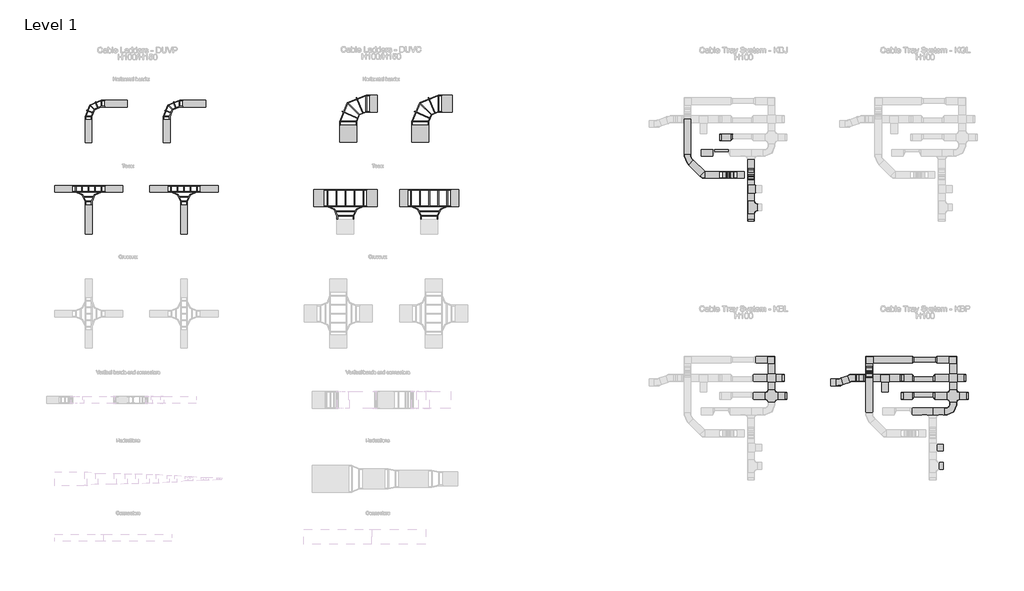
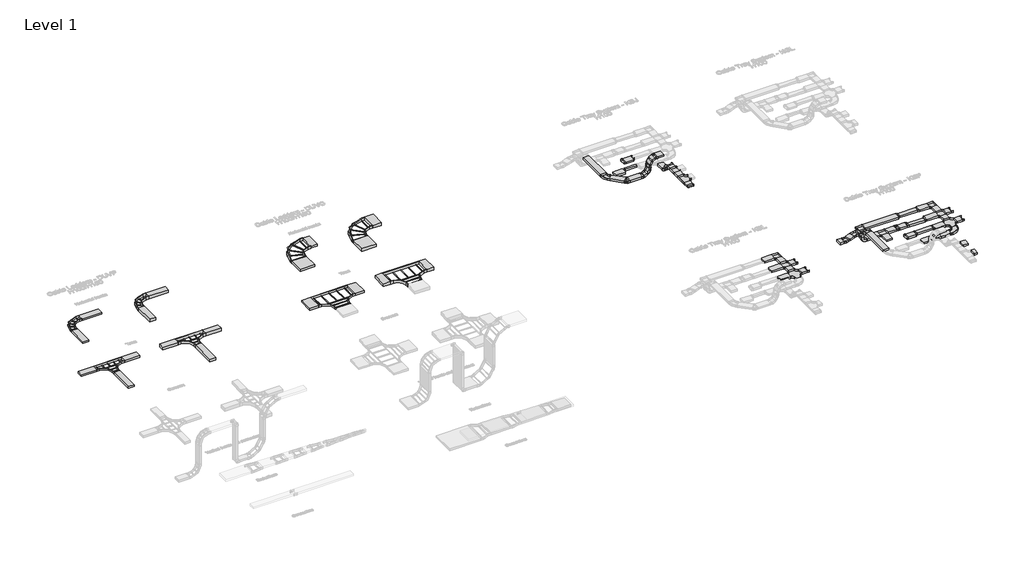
# One storey, part 24 of 106: 63 cable carrier segments, 57 cable carrier fittings.
"""IFC4 building model written with IfcOpenShell, lengths in millimetres."""

from ifc_helpers import new_model, si_unit, frame, origin, place, context, project, spatial, polyline, outline, extrude, transform, mapped, element, save
from components import cable_carrier_fitting_cb057536, cable_carrier_fitting_d4f283aa, cable_carrier_fitting_c163f1ca, cable_carrier_fitting_42195290, cable_carrier_fitting_5f227b89, cable_carrier_fitting_7ef83dec, cable_carrier_fitting_1d3f857e, cable_carrier_fitting_0afdfe74, cable_carrier_fitting_2d5aa353, cable_carrier_fitting_83230dc4, cable_carrier_fitting_3cbe9e62, cable_carrier_fitting_c86838e9, cable_carrier_fitting_985dcf24, cable_carrier_fitting_ca5a2d19, cable_carrier_fitting_24d58ad9, cable_carrier_fitting_3a6d649d, cable_carrier_fitting_1be5f7b4, cable_carrier_fitting_32826c86, cable_carrier_fitting_b014db50, cable_carrier_fitting_215990fd, cable_carrier_fitting_a4a1986d, cable_carrier_fitting_337cd88a, cable_carrier_fitting_d9dc0397, cable_carrier_fitting_aff088c4, cable_carrier_fitting_f64cf4c9, cable_carrier_fitting_9c7536f1, cable_carrier_fitting_f50788b4, cable_carrier_fitting_844d2b92, cable_carrier_fitting_29c6dbfe, cable_carrier_fitting_c3247b3d, cable_carrier_fitting_a7df6f7b, cable_carrier_fitting_eff098e2

model = new_model("IFC4")

# Units and contexts
model_context = context("Model", 3, world=origin())
ifc_project = project(units=[si_unit("LENGTHUNIT", "METRE", prefix="MILLI")], contexts=[model_context])

# Site, building, storey
site = spatial("IfcSite", under=ifc_project)
building = spatial("IfcBuilding", under=site)
storey = spatial("IfcBuildingStorey", under=building, Name="Level 1", Elevation=0.0)

# Cable carrier fittings
placement = place(None, origin())
cable_carrier_fitting_shape = cable_carrier_fitting_cb057536(model_context)
element("IfcCableCarrierFitting", 1, ObjectType="BAKS_BEND_Adjustable vertical bend element_EL : ELP_H100", at=placement, inside=storey, context=model_context, shape_type="MappedRepresentation", body=[
    mapped(cable_carrier_fitting_shape, transform((158633.2340999, 66131.3714214, 322.7153903), x_axis=(0.4999999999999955, 0.0, 0.8660254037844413), y_axis=(0.0, 1.0, 0.0), z_axis=(-0.8660254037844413, 0.0, 0.4999999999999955))),
])
element("IfcCableCarrierFitting", 2, ObjectType="BAKS_BEND_Adjustable vertical bend element_EL : ELP_H100", at=placement, inside=storey, context=model_context, shape_type="MappedRepresentation", body=[
    mapped(cable_carrier_fitting_shape, transform((158436.5219776, 66131.3714214, 223.0), x_axis=(0.8660254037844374, 0.0, 0.5000000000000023), y_axis=(0.0, 1.0, 0.0), z_axis=(-0.5000000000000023, 0.0, 0.8660254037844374))),
])
element("IfcCableCarrierFitting", 3, ObjectType="BAKS_BEND_Adjustable vertical bend element_EL : ELP_H100", at=placement, inside=storey, context=model_context, shape_type="MappedRepresentation", body=[
    mapped(cable_carrier_fitting_shape, transform((158841.4494902, 66131.3714214, 936.9011537), x_axis=(0.8660254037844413, 0.0, 0.4999999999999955), y_axis=(0.0, -1.0, 0.0), z_axis=(0.4999999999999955, 0.0, -0.8660254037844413))),
])
element("IfcCableCarrierFitting", 4, ObjectType="BAKS_BEND_Adjustable vertical bend element_EL : ELP_H100", at=placement, inside=storey, context=model_context, shape_type="MappedRepresentation", body=[
    mapped(cable_carrier_fitting_shape, transform((158741.7340999, 66131.3714214, 740.1890314), x_axis=(0.5000000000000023, 0.0, 0.8660254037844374), y_axis=(0.0, -1.0, 0.0), z_axis=(0.8660254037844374, 0.0, -0.5000000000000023))),
])
cable_carrier_fitting_2_shape = cable_carrier_fitting_d4f283aa(model_context)
element("IfcCableCarrierFitting", 5, ObjectType="BAKS_Reducer : RK(S/L/P)J_H100", at=placement, inside=storey, context=model_context, shape_type="MappedRepresentation", body=[
    mapped(cable_carrier_fitting_2_shape, transform((158377.8329462, 67780.8714214, 0.0), x_axis=(1.0, 0.0, 0.0), y_axis=(0.0, 1.0, 0.0), z_axis=(0.0, 0.0, 1.0))),
])
element("IfcCableCarrierFitting", 6, ObjectType="BAKS_Reducer : RK(S/L/P)J_H100", at=placement, inside=storey, context=model_context, shape_type="MappedRepresentation", body=[
    mapped(cable_carrier_fitting_2_shape, transform((159753.8329462, 64094.2974728, 432.5277378), x_axis=(0.0, 1.0, 0.0), y_axis=(-1.0, 0.0, 0.0), z_axis=(0.0, 0.0, 1.0))),
])
element("IfcCableCarrierFitting", 7, ObjectType="BAKS_Reducer : RK(S/L/P)J_H100", at=placement, inside=storey, context=model_context, shape_type="MappedRepresentation", body=[
    mapped(cable_carrier_fitting_2_shape, transform((161211.8329462, 57180.8714214, 0.0), x_axis=(-1.0, 0.0, 0.0), y_axis=(0.0, -1.0, 0.0), z_axis=(0.0, 0.0, 1.0))),
])
element("IfcCableCarrierFitting", 8, ObjectType="BAKS_Reducer : RK(S/L/P)J_H100", at=placement, inside=storey, context=model_context, shape_type="MappedRepresentation", body=[
    mapped(cable_carrier_fitting_2_shape, transform((161325.8329462, 56380.8714214, 0.0), x_axis=(-1.0, 0.0, 0.0), y_axis=(0.0, -1.0, 0.0), z_axis=(0.0, 0.0, 1.0))),
])
cable_carrier_fitting_3_shape = cable_carrier_fitting_c163f1ca(model_context)
element("IfcCableCarrierFitting", 9, ObjectType="BAKS_Reducer : RK(S/L/P)J_H100", at=placement, inside=storey, context=model_context, shape_type="MappedRepresentation", body=[
    mapped(cable_carrier_fitting_3_shape, transform((158951.8329462, 67830.8714214, 0.0), x_axis=(-1.0, 0.0, 0.0), y_axis=(0.0, -1.0, 0.0), z_axis=(0.0, 0.0, 1.0))),
])
cable_carrier_fitting_4_shape = cable_carrier_fitting_42195290(model_context)
element("IfcCableCarrierFitting", 10, ObjectType="BAKS_Horizontal bend : KKJ/KKMJ_H100", at=placement, inside=storey, context=model_context, shape_type="MappedRepresentation", body=[
    mapped(cable_carrier_fitting_4_shape, transform((160656.8329462, 57980.8714214, 0.0), x_axis=(0.0, 1.0, 0.0), y_axis=(-1.0, 0.0, 0.0), z_axis=(0.0, 0.0, 1.0))),
])
cable_carrier_fitting_5_shape = cable_carrier_fitting_5f227b89(model_context)
element("IfcCableCarrierFitting", 11, ObjectType="BAKS_Horizontal cross over : CZKJ_H100", at=placement, inside=storey, context=model_context, shape_type="MappedRepresentation", body=[
    mapped(cable_carrier_fitting_5_shape, transform((160656.8329462, 57180.8714214, 0.0), x_axis=(0.0, -1.0, 0.0), y_axis=(1.0, 0.0, 0.0), z_axis=(0.0, 0.0, 1.0))),
])
element("IfcCableCarrierFitting", 12, ObjectType="BAKS_Horizontal cross over : CZKJ_H100", at=placement, inside=storey, context=model_context, shape_type="MappedRepresentation", body=[
    mapped(cable_carrier_fitting_5_shape, transform((168656.8329462, 57180.8714214, 0.0), x_axis=(0.0, -1.0, 0.0), y_axis=(1.0, 0.0, 0.0), z_axis=(0.0, 0.0, 1.0))),
])
cable_carrier_fitting_6_shape = cable_carrier_fitting_7ef83dec(model_context)
element("IfcCableCarrierFitting", 13, ObjectType="BAKS_Horizontal cross over radius : CZKPJ_H100", at=placement, inside=storey, context=model_context, shape_type="MappedRepresentation", body=[
    mapped(cable_carrier_fitting_6_shape, transform((160656.8329462, 56380.8714214, 0.0), x_axis=(0.0, -1.0, 0.0), y_axis=(1.0, 0.0, 0.0), z_axis=(0.0, 0.0, 1.0))),
])
element("IfcCableCarrierFitting", 14, ObjectType="BAKS_Horizontal cross over radius : CZKPJ_H100", at=placement, inside=storey, context=model_context, shape_type="MappedRepresentation", body=[
    mapped(cable_carrier_fitting_6_shape, transform((168656.8329462, 56380.8714214, 0.0), x_axis=(0.0, -1.0, 0.0), y_axis=(1.0, 0.0, 0.0), z_axis=(0.0, 0.0, 1.0))),
])
cable_carrier_fitting_7_shape = cable_carrier_fitting_1d3f857e(model_context)
element("IfcCableCarrierFitting", 15, ObjectType="BAKS_Horizontal bend radius : KKPJ/KKMPJ_H100", at=placement, inside=storey, context=model_context, shape_type="MappedRepresentation", body=[
    mapped(cable_carrier_fitting_7_shape, transform((156956.8329462, 66830.8714214, 235.0), x_axis=(0.0, -1.0, 0.0), y_axis=(1.0, 0.0, 0.0), z_axis=(0.0, 0.0, 1.0))),
])
cable_carrier_fitting_8_shape = cable_carrier_fitting_0afdfe74(model_context)
element("IfcCableCarrierFitting", 16, ObjectType="BAKS_Horizontal tee : TKJ_H100", at=placement, inside=storey, context=model_context, shape_type="MappedRepresentation", body=[
    mapped(cable_carrier_fitting_8_shape, transform((159753.8329462, 65503.8631068, 432.5277378), x_axis=(0.0, 1.0, 0.0), y_axis=(-1.0, 0.0, 0.0), z_axis=(0.0, 0.0, 1.0))),
])
cable_carrier_fitting_9_shape = cable_carrier_fitting_2d5aa353(model_context)
element("IfcCableCarrierFitting", 17, ObjectType="BAKS_BEND_Articulated connector_LGP : LGP_H100", at=placement, inside=storey, context=model_context, shape_type="MappedRepresentation", body=[
    mapped(cable_carrier_fitting_9_shape, transform((158457.3065873, 65981.3714214, 235.0), x_axis=(1.0, 0.0, 0.0), y_axis=(0.0, 0.0, 1.0), z_axis=(0.0, -1.0, 0.0))),
])
element("IfcCableCarrierFitting", 18, ObjectType="BAKS_BEND_Articulated connector_LGP : LGP_H100", at=placement, inside=storey, context=model_context, shape_type="MappedRepresentation", body=[
    mapped(cable_carrier_fitting_9_shape, transform((158753.7340999, 66281.3714214, 760.9736411), x_axis=(0.0, 0.0, 1.0), y_axis=(1.0, 0.0, 0.0), z_axis=(0.0, 1.0, 0.0))),
])
cable_carrier_fitting_10_shape = cable_carrier_fitting_83230dc4(model_context)
element("IfcCableCarrierFitting", 19, ObjectType="BAKS_BEND_Articulated connector_LGP : LGP_H100", at=placement, inside=storey, context=model_context, shape_type="MappedRepresentation", body=[
    mapped(cable_carrier_fitting_10_shape, transform((158753.7340999, 65981.3714214, 531.4275126), x_axis=(0.4999999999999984, 0.0, 0.8660254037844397), y_axis=(-0.8660254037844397, 0.0, 0.4999999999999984), z_axis=(0.0, -1.0, 0.0))),
])
element("IfcCableCarrierFitting", 20, ObjectType="BAKS_BEND_Articulated connector_LGP : LGP_H100", at=placement, inside=storey, context=model_context, shape_type="MappedRepresentation", body=[
    mapped(cable_carrier_fitting_10_shape, transform((159050.1616126, 66281.3714214, 1057.4011537), x_axis=(0.8660254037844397, 0.0, 0.4999999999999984), y_axis=(0.4999999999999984, 0.0, -0.8660254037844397), z_axis=(0.0, 1.0, 0.0))),
])
cable_carrier_fitting_11_shape = cable_carrier_fitting_3cbe9e62(model_context)
element("IfcCableCarrierFitting", 21, ObjectType="BAKS_BEND_Articulated connector_LGP : LGP_H100", at=placement, inside=storey, context=model_context, shape_type="MappedRepresentation", body=[
    mapped(cable_carrier_fitting_11_shape, transform((158753.7340999, 66281.3714214, 531.4275126), x_axis=(0.4999999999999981, 0.0, 0.8660254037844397), y_axis=(0.8660254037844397, 0.0, -0.4999999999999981), z_axis=(0.0, 1.0, 0.0))),
])
element("IfcCableCarrierFitting", 22, ObjectType="BAKS_BEND_Articulated connector_LGP : LGP_H100", at=placement, inside=storey, context=model_context, shape_type="MappedRepresentation", body=[
    mapped(cable_carrier_fitting_11_shape, transform((159050.1616126, 65981.3714214, 1057.4011537), x_axis=(0.8660254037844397, 0.0, 0.4999999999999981), y_axis=(-0.4999999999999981, 0.0, 0.8660254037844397), z_axis=(0.0, -1.0, 0.0))),
])
cable_carrier_fitting_12_shape = cable_carrier_fitting_c86838e9(model_context)
element("IfcCableCarrierFitting", 23, ObjectType="BAKS_BEND_Articulated connector_LGP : LGP_H100", at=placement, inside=storey, context=model_context, shape_type="MappedRepresentation", body=[
    mapped(cable_carrier_fitting_12_shape, transform((158457.3065873, 66281.3714214, 235.0), x_axis=(1.0, 0.0, 0.0), y_axis=(0.0, 0.0, -1.0), z_axis=(0.0, 1.0, 0.0))),
])
element("IfcCableCarrierFitting", 24, ObjectType="BAKS_BEND_Articulated connector_LGP : LGP_H100", at=placement, inside=storey, context=model_context, shape_type="MappedRepresentation", body=[
    mapped(cable_carrier_fitting_12_shape, transform((158753.7340999, 65981.3714214, 760.9736411), x_axis=(0.0, 0.0, 1.0), y_axis=(-1.0, 0.0, 0.0), z_axis=(0.0, -1.0, 0.0))),
])
cable_carrier_fitting_13_shape = cable_carrier_fitting_985dcf24(model_context)
element("IfcCableCarrierFitting", 25, ObjectType="BAKS_Horizontal bend : KKJ/KKMJ_H100", at=placement, inside=storey, context=model_context, shape_type="MappedRepresentation", body=[
    mapped(cable_carrier_fitting_13_shape, transform((157656.3329462, 66131.3714214, 235.0), x_axis=(0.707106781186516, -0.707106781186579, 0.0), y_axis=(0.707106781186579, 0.707106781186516, 0.0), z_axis=(0.0, 0.0, 1.0))),
])
cable_carrier_fitting_14_shape = cable_carrier_fitting_ca5a2d19(model_context)
element("IfcCableCarrierFitting", 26, ObjectType="BAKS_Horizontal tee radius : TKPJ_H100", at=placement, inside=storey, context=model_context, shape_type="MappedRepresentation", body=[
    mapped(cable_carrier_fitting_14_shape, transform((159753.8329462, 64696.5802898, 432.5277378), x_axis=(0.0, 1.0, 0.0), y_axis=(-1.0, 0.0, 0.0), z_axis=(0.0, 0.0, 1.0))),
])
cable_carrier_fitting_15_shape = cable_carrier_fitting_24d58ad9(model_context)
element("IfcCableCarrierFitting", 27, ObjectType="BAKS_Horizontal bend radius : KKPP/KKMPP_H100", at=placement, inside=storey, context=model_context, shape_type="MappedRepresentation", body=[
    mapped(cable_carrier_fitting_15_shape, transform((168656.8329462, 55699.8714214, 0.0), x_axis=(1.0, 0.0, 0.0), y_axis=(0.0, 1.0, 0.0), z_axis=(0.0, 0.0, 1.0))),
])
cable_carrier_fitting_16_shape = cable_carrier_fitting_3a6d649d(model_context)
element("IfcCableCarrierFitting", 28, ObjectType="BAKS_Horizontal bend radius : KKPP/KKMPP_H100", at=placement, inside=storey, context=model_context, shape_type="MappedRepresentation", body=[
    mapped(cable_carrier_fitting_16_shape, transform((164186.1981218, 57180.8714214, 438.0), x_axis=(-1.0, 0.0, 0.0), y_axis=(0.0, -1.0, 0.0), z_axis=(0.0, 0.0, 1.0))),
])
element("IfcCableCarrierFitting", 29, ObjectType="BAKS_Horizontal bend radius : KKPP/KKMPP_H100", at=placement, inside=storey, context=model_context, shape_type="MappedRepresentation", body=[
    mapped(cable_carrier_fitting_16_shape, transform((163630.7130894, 56978.691404, 438.0), x_axis=(1.0, 0.0, 0.0), y_axis=(0.0, 1.0, 0.0), z_axis=(0.0, 0.0, 1.0))),
])
cable_carrier_fitting_17_shape = cable_carrier_fitting_1be5f7b4(model_context)
element("IfcCableCarrierFitting", 30, ObjectType="BAKS_Reducer : RK(S/L/P)P_H100", at=placement, inside=storey, context=model_context, shape_type="MappedRepresentation", body=[
    mapped(cable_carrier_fitting_17_shape, transform((167856.8329462, 57980.8714214, 0.0), x_axis=(1.0, 0.0, 0.0), y_axis=(0.0, 1.0, 0.0), z_axis=(0.0, 0.0, 1.0))),
])
element("IfcCableCarrierFitting", 31, ObjectType="BAKS_Reducer : RK(S/L/P)P_H100", at=placement, inside=storey, context=model_context, shape_type="MappedRepresentation", body=[
    mapped(cable_carrier_fitting_3_shape, transform((167761.8329462, 57130.8714214, 0.0), x_axis=(1.0, 0.0, 0.0), y_axis=(0.0, 1.0, 0.0), z_axis=(0.0, 0.0, 1.0))),
])
element("IfcCableCarrierFitting", 32, ObjectType="BAKS_Reducer : RK(S/L/P)P_H100", at=placement, inside=storey, context=model_context, shape_type="MappedRepresentation", body=[
    mapped(cable_carrier_fitting_3_shape, transform((166951.8329462, 56430.8714214, 0.0), x_axis=(-1.0, 0.0, 0.0), y_axis=(0.0, -1.0, 0.0), z_axis=(0.0, 0.0, 1.0))),
])
cable_carrier_fitting_18_shape = cable_carrier_fitting_32826c86(model_context)
element("IfcCableCarrierFitting", 33, ObjectType="BAKS_Reducer : RK(S/L/P)P_H100", at=placement, inside=storey, context=model_context, shape_type="MappedRepresentation", body=[
    mapped(cable_carrier_fitting_18_shape, transform((166951.8329462, 57130.8714214, 0.0), x_axis=(-1.0, 0.0, 0.0), y_axis=(0.0, -1.0, 0.0), z_axis=(0.0, 0.0, 1.0))),
])
element("IfcCableCarrierFitting", 34, ObjectType="BAKS_Reducer : RK(S/L/P)P_H100", at=placement, inside=storey, context=model_context, shape_type="MappedRepresentation", body=[
    mapped(cable_carrier_fitting_18_shape, transform((167761.8329462, 56430.8714214, 0.0), x_axis=(1.0, 0.0, 0.0), y_axis=(0.0, 1.0, 0.0), z_axis=(0.0, 0.0, 1.0))),
])
element("IfcCableCarrierFitting", 35, ObjectType="BAKS_Reducer : RK(S/L/P)P_H100", at=placement, inside=storey, context=model_context, shape_type="MappedRepresentation", body=[
    mapped(cable_carrier_fitting_2_shape, transform((166399.3329462, 57180.8714214, 0.0), x_axis=(1.0, 0.0, 0.0), y_axis=(0.0, 1.0, 0.0), z_axis=(0.0, 0.0, 1.0))),
])
element("IfcCableCarrierFitting", 36, ObjectType="BAKS_Reducer : RK(S/L/P)P_H100", at=placement, inside=storey, context=model_context, shape_type="MappedRepresentation", body=[
    mapped(cable_carrier_fitting_2_shape, transform((166399.3329462, 57180.8714214, 0.0), x_axis=(-1.0, 0.0, 0.0), y_axis=(0.0, -1.0, 0.0), z_axis=(0.0, 0.0, 1.0))),
])
element("IfcCableCarrierFitting", 37, ObjectType="BAKS_Reducer : RK(S/L/P)P_H100", at=placement, inside=storey, context=model_context, shape_type="MappedRepresentation", body=[
    mapped(cable_carrier_fitting_2_shape, transform((166377.8329462, 56380.8714214, 0.0), x_axis=(1.0, 0.0, 0.0), y_axis=(0.0, 1.0, 0.0), z_axis=(0.0, 0.0, 1.0))),
])
element("IfcCableCarrierFitting", 38, ObjectType="BAKS_Reducer : RK(S/L/P)P_H100", at=placement, inside=storey, context=model_context, shape_type="MappedRepresentation", body=[
    mapped(cable_carrier_fitting_2_shape, transform((169211.8329462, 57180.8714214, 0.0), x_axis=(-1.0, 0.0, 0.0), y_axis=(0.0, -1.0, 0.0), z_axis=(0.0, 0.0, 1.0))),
])
element("IfcCableCarrierFitting", 39, ObjectType="BAKS_Reducer : RK(S/L/P)P_H100", at=placement, inside=storey, context=model_context, shape_type="MappedRepresentation", body=[
    mapped(cable_carrier_fitting_2_shape, transform((169325.8329462, 56380.8714214, 0.0), x_axis=(-1.0, 0.0, 0.0), y_axis=(0.0, -1.0, 0.0), z_axis=(0.0, 0.0, 1.0))),
])
cable_carrier_fitting_19_shape = cable_carrier_fitting_b014db50(model_context)
element("IfcCableCarrierFitting", 40, ObjectType="BAKS_Reducer : RK(S/L/P)P_H100", at=placement, inside=storey, context=model_context, shape_type="MappedRepresentation", body=[
    mapped(cable_carrier_fitting_19_shape, transform((166856.8329462, 57980.8714214, 0.0), x_axis=(1.0, 0.0, 0.0), y_axis=(0.0, 1.0, 0.0), z_axis=(0.0, 0.0, 1.0))),
])
element("IfcCableCarrierFitting", 41, ObjectType="BAKS_Horizontal tee : TKP_H100", at=placement, inside=storey, context=model_context, shape_type="MappedRepresentation", body=[
    mapped(cable_carrier_fitting_8_shape, transform((165656.3329462, 57180.8714214, 0.0), x_axis=(1.0, 0.0, 0.0), y_axis=(0.0, 1.0, 0.0), z_axis=(0.0, 0.0, 1.0))),
])
element("IfcCableCarrierFitting", 42, ObjectType="BAKS_Horizontal bend : KKP/KKMP_H100", at=placement, inside=storey, context=model_context, shape_type="MappedRepresentation", body=[
    mapped(cable_carrier_fitting_4_shape, transform((168656.8329462, 57980.8714214, 0.0), x_axis=(0.0, 1.0, 0.0), y_axis=(-1.0, 0.0, 0.0), z_axis=(0.0, 0.0, 1.0))),
])
element("IfcCableCarrierFitting", 43, ObjectType="BAKS_Horizontal bend : KKP/KKMP_H100", at=placement, inside=storey, context=model_context, shape_type="MappedRepresentation", body=[
    mapped(cable_carrier_fitting_4_shape, transform((164956.8329462, 57980.8714214, 0.0), x_axis=(-1.0, 0.0, 0.0), y_axis=(0.0, -1.0, 0.0), z_axis=(0.0, 0.0, 1.0))),
])
cable_carrier_fitting_20_shape = cable_carrier_fitting_215990fd(model_context)
element("IfcCableCarrierFitting", 44, ObjectType="BAKS_LD_TEE_Ladder horizontal tee_TDV : TDVP_H100", at=placement, inside=storey, context=model_context, shape_type="MappedRepresentation", body=[
    mapped(cable_carrier_fitting_20_shape, transform((130580.0391708, 65510.0532021, 55.0), x_axis=(1.0, 0.0, 0.0), y_axis=(0.0, 1.0, 0.0), z_axis=(0.0, 0.0, 1.0))),
])
cable_carrier_fitting_21_shape = cable_carrier_fitting_a4a1986d(model_context)
element("IfcCableCarrierFitting", 45, ObjectType="BAKS_LD_TEE_Ladder horizontal tee_TDV : TDVP_H150", at=placement, inside=storey, context=model_context, shape_type="MappedRepresentation", body=[
    mapped(cable_carrier_fitting_21_shape, transform((134780.1043169, 65510.0532021, 55.0), x_axis=(1.0, 0.0, 0.0), y_axis=(0.0, 1.0, 0.0), z_axis=(0.0, 0.0, 1.0))),
])
cable_carrier_fitting_22_shape = cable_carrier_fitting_337cd88a(model_context)
element("IfcCableCarrierFitting", 46, ObjectType="BAKS_LD_TEE_Ladder horizontal tee_TDV : TDVC_H100", at=placement, inside=storey, context=model_context, shape_type="MappedRepresentation", body=[
    mapped(cable_carrier_fitting_22_shape, transform((141889.5117541, 65098.4267449, 55.0), x_axis=(1.0, 0.0, 0.0), y_axis=(0.0, 1.0, 0.0), z_axis=(0.0, 0.0, 1.0))),
])
cable_carrier_fitting_23_shape = cable_carrier_fitting_d9dc0397(model_context)
element("IfcCableCarrierFitting", 47, ObjectType="BAKS_LD_TEE_Ladder horizontal tee_TDV : TDVC_H150", at=placement, inside=storey, context=model_context, shape_type="MappedRepresentation", body=[
    mapped(cable_carrier_fitting_23_shape, transform((145580.1043169, 65098.4267449, 55.0), x_axis=(1.0, 0.0, 0.0), y_axis=(0.0, 1.0, 0.0), z_axis=(0.0, 0.0, 1.0))),
])
cable_carrier_fitting_24_shape = cable_carrier_fitting_aff088c4(model_context)
element("IfcCableCarrierFitting", 48, ObjectType="BAKS_LD_BEND_Horizontal bend_LDV : LDVP_H100", at=placement, inside=storey, context=model_context, shape_type="MappedRepresentation", body=[
    mapped(cable_carrier_fitting_24_shape, transform((130569.5117541, 69272.6565861, 55.0), x_axis=(-1.0, 0.0, 0.0), y_axis=(0.0, -1.0, 0.0), z_axis=(0.0, 0.0, 1.0))),
])
cable_carrier_fitting_25_shape = cable_carrier_fitting_f64cf4c9(model_context)
element("IfcCableCarrierFitting", 49, ObjectType="BAKS_LD_BEND_Horizontal bend_LDV : LDVP_H150", at=placement, inside=storey, context=model_context, shape_type="MappedRepresentation", body=[
    mapped(cable_carrier_fitting_25_shape, transform((134013.2686358, 69272.6565861, 55.0), x_axis=(-1.0, 0.0, 0.0), y_axis=(0.0, -1.0, 0.0), z_axis=(0.0, 0.0, 1.0))),
])
cable_carrier_fitting_26_shape = cable_carrier_fitting_9c7536f1(model_context)
element("IfcCableCarrierFitting", 50, ObjectType="BAKS_LD_BEND_Horizontal bend_LDV : LDVC_H100", at=placement, inside=storey, context=model_context, shape_type="MappedRepresentation", body=[
    mapped(cable_carrier_fitting_26_shape, transform((142009.5117541, 69272.6565861, 55.0), x_axis=(-1.0, 0.0, 0.0), y_axis=(0.0, -1.0, 0.0), z_axis=(0.0, 0.0, 1.0))),
])
element("IfcCableCarrierFitting", 51, ObjectType="BAKS_LD_BEND_Horizontal bend_LDV : LDVC_H150", at=placement, inside=storey, context=model_context, shape_type="MappedRepresentation", body=[
    mapped(cable_carrier_fitting_26_shape, transform((145189.5117541, 69272.6565861, 55.0), x_axis=(-1.0, 0.0, 0.0), y_axis=(0.0, -1.0, 0.0), z_axis=(0.0, 0.0, 1.0))),
])
cable_carrier_fitting_27_shape = cable_carrier_fitting_f50788b4(model_context)
element("IfcCableCarrierFitting", 52, ObjectType="BAKS_KK_Vertical bend EXTERNAL_LU : LUMNJ_H100", at=placement, inside=storey, context=model_context, shape_type="MappedRepresentation", body=[
    mapped(cable_carrier_fitting_27_shape, transform((159753.8329462, 66258.7056523, 0.0), x_axis=(0.0, -1.0, 0.0), y_axis=(0.0, 0.0, 1.0), z_axis=(-1.0, 0.0, 0.0))),
])
cable_carrier_fitting_28_shape = cable_carrier_fitting_844d2b92(model_context)
element("IfcCableCarrierFitting", 53, ObjectType="BAKS_KK_Vertical bend INTERNAL_LU : LUMNJ_H100", at=placement, inside=storey, context=model_context, shape_type="MappedRepresentation", body=[
    mapped(cable_carrier_fitting_28_shape, transform((159753.8329462, 66057.0146558, 432.5277378), x_axis=(0.0, -0.42261826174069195, 0.9063077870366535), y_axis=(0.0, -0.9063077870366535, -0.42261826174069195), z_axis=(1.0, 0.0, 0.0))),
])
cable_carrier_fitting_29_shape = cable_carrier_fitting_29c6dbfe(model_context)
element("IfcCableCarrierFitting", 54, ObjectType="BAKS_KK_Vertical bend EXTERNAL_LU : LUMPNP_H100", at=placement, inside=storey, context=model_context, shape_type="MappedRepresentation", body=[
    mapped(cable_carrier_fitting_29_shape, transform((164956.8329462, 57560.8714214, 0.0), x_axis=(0.0, -1.0, 0.0), y_axis=(0.0, 0.0, 1.0), z_axis=(-1.0, 0.0, 0.0))),
])
cable_carrier_fitting_30_shape = cable_carrier_fitting_c3247b3d(model_context)
element("IfcCableCarrierFitting", 55, ObjectType="BAKS_KK_Vertical bend INTERNAL_LU : LUMPNP_H100", at=placement, inside=storey, context=model_context, shape_type="MappedRepresentation", body=[
    mapped(cable_carrier_fitting_30_shape, transform((164956.8329462, 57325.8714214, 235.0), x_axis=(0.0, 1.0, 0.0), y_axis=(0.0, 0.0, -1.0), z_axis=(-1.0, 0.0, 0.0))),
])
cable_carrier_fitting_31_shape = cable_carrier_fitting_a7df6f7b(model_context)
element("IfcCableCarrierFitting", 56, ObjectType="BAKS_KK_Vertical bend INTERNAL_LU : LUNP_H100", at=placement, inside=storey, context=model_context, shape_type="MappedRepresentation", body=[
    mapped(cable_carrier_fitting_31_shape, transform((164556.3329462, 57180.8714214, 438.0), x_axis=(0.0, 0.0, 1.0), y_axis=(-1.0, 0.0, 0.0), z_axis=(0.0, -1.0, 0.0))),
])
cable_carrier_fitting_32_shape = cable_carrier_fitting_eff098e2(model_context)
element("IfcCableCarrierFitting", 57, ObjectType="BAKS_KK_Vertical bend EXTERNAL_LU : LUNP_H100", at=placement, inside=storey, context=model_context, shape_type="MappedRepresentation", body=[
    mapped(cable_carrier_fitting_32_shape, transform((164556.3329462, 57180.8714214, 0.0), x_axis=(-1.0, 0.0, 0.0), y_axis=(0.0, 0.0, 1.0), z_axis=(0.0, 1.0, 0.0))),
])

# Cable carrier segments
element("IfcCableCarrierSegment", 58, ObjectType="BAKS - Ladder H100 (DUVP)", at=placement, inside=storey, context=model_context, shape_type="SweptSolid", body=[
    extrude(outline(polyline([(131289.5117541, 69122.6565861), (131289.5117541, 69422.6565861), (132289.5117541, 69422.6565861), (132289.5117541, 69122.6565861), (131289.5117541, 69122.6565861)])), frame((0.0, 0.0, 5.0), z_axis=(0.0, 0.0, 1.0), x_axis=(1.0, 0.0, 0.0)), (0.0, 0.0, 1.0), 100.0),
])
element("IfcCableCarrierSegment", 59, ObjectType="BAKS - Ladder H100 (DUVP)", at=placement, inside=storey, context=model_context, shape_type="SweptSolid", body=[
    extrude(outline(polyline([(130419.5117541, 68552.6565861), (130719.5117541, 68552.6565861), (130719.5117541, 67552.6565861), (130419.5117541, 67552.6565861), (130419.5117541, 68552.6565861)])), frame((0.0, 0.0, 5.0), z_axis=(0.0, 0.0, 1.0), x_axis=(1.0, 0.0, 0.0)), (0.0, 0.0, 1.0), 100.0),
])
element("IfcCableCarrierSegment", 60, ObjectType="BAKS - Ladder H150 (DUVP)", at=placement, inside=storey, context=model_context, shape_type="SweptSolid", body=[
    extrude(outline(polyline([(135733.2686358, 69422.6565861), (135733.2686358, 69122.6565861), (134733.2686358, 69122.6565861), (134733.2686358, 69422.6565861), (135733.2686358, 69422.6565861)])), frame((0.0, 0.0, -20.0), z_axis=(0.0, 0.0, 1.0), x_axis=(1.0, 0.0, 0.0)), (0.0, 0.0, 1.0), 150.0),
])
element("IfcCableCarrierSegment", 61, ObjectType="BAKS - Ladder H150 (DUVP)", at=placement, inside=storey, context=model_context, shape_type="SweptSolid", body=[
    extrude(outline(polyline([(133863.2686358, 68552.6565861), (134163.2686358, 68552.6565861), (134163.2686358, 67552.6565861), (133863.2686358, 67552.6565861), (133863.2686358, 68552.6565861)])), frame((0.0, 0.0, -20.0), z_axis=(0.0, 0.0, 1.0), x_axis=(1.0, 0.0, 0.0)), (0.0, 0.0, 1.0), 150.0),
])
element("IfcCableCarrierSegment", 62, ObjectType="BAKS - Ladder H100 (DUVP)", at=placement, inside=storey, context=model_context, shape_type="SweptSolid", body=[
    extrude(outline(polyline([(131300.0391708, 65360.0532021), (131300.0391708, 65660.0532021), (132080.0391708, 65660.0532021), (132080.0391708, 65360.0532021), (131300.0391708, 65360.0532021)])), frame((0.0, 0.0, 5.0), z_axis=(0.0, 0.0, 1.0), x_axis=(1.0, 0.0, 0.0)), (0.0, 0.0, 1.0), 100.0),
])
element("IfcCableCarrierSegment", 63, ObjectType="BAKS - Ladder H100 (DUVP)", at=placement, inside=storey, context=model_context, shape_type="SweptSolid", body=[
    extrude(outline(polyline([(130430.0391708, 64790.0532021), (130730.0391708, 64790.0532021), (130730.0391708, 63510.0532021), (130430.0391708, 63510.0532021), (130430.0391708, 64790.0532021)])), frame((0.0, 0.0, 5.0), z_axis=(0.0, 0.0, 1.0), x_axis=(1.0, 0.0, 0.0)), (0.0, 0.0, 1.0), 100.0),
])
element("IfcCableCarrierSegment", 64, ObjectType="BAKS - Ladder H100 (DUVP)", at=placement, inside=storey, context=model_context, shape_type="SweptSolid", body=[
    extrude(outline(polyline([(129080.0391708, 65360.0532021), (129080.0391708, 65660.0532021), (129860.0391708, 65660.0532021), (129860.0391708, 65360.0532021), (129080.0391708, 65360.0532021)])), frame((0.0, 0.0, 5.0), z_axis=(0.0, 0.0, 1.0), x_axis=(1.0, 0.0, 0.0)), (0.0, 0.0, 1.0), 100.0),
])
element("IfcCableCarrierSegment", 65, ObjectType="BAKS - Ladder H150 (DUVP)", at=placement, inside=storey, context=model_context, shape_type="SweptSolid", body=[
    extrude(outline(polyline([(135500.1043169, 65360.0532021), (135500.1043169, 65660.0532021), (136280.1043169, 65660.0532021), (136280.1043169, 65360.0532021), (135500.1043169, 65360.0532021)])), frame((0.0, 0.0, -20.0), z_axis=(0.0, 0.0, 1.0), x_axis=(1.0, 0.0, 0.0)), (0.0, 0.0, 1.0), 150.0),
])
element("IfcCableCarrierSegment", 66, ObjectType="BAKS - Ladder H150 (DUVP)", at=placement, inside=storey, context=model_context, shape_type="SweptSolid", body=[
    extrude(outline(polyline([(134630.1043169, 64790.0532021), (134930.1043169, 64790.0532021), (134930.1043169, 63510.0532021), (134630.1043169, 63510.0532021), (134630.1043169, 64790.0532021)])), frame((0.0, 0.0, -20.0), z_axis=(0.0, 0.0, 1.0), x_axis=(1.0, 0.0, 0.0)), (0.0, 0.0, 1.0), 150.0),
])
element("IfcCableCarrierSegment", 67, ObjectType="BAKS - Ladder H150 (DUVP)", at=placement, inside=storey, context=model_context, shape_type="SweptSolid", body=[
    extrude(outline(polyline([(134060.1043169, 65660.0532021), (134060.1043169, 65360.0532021), (133280.1043169, 65360.0532021), (133280.1043169, 65660.0532021), (134060.1043169, 65660.0532021)])), frame((0.0, 0.0, -20.0), z_axis=(0.0, 0.0, 1.0), x_axis=(1.0, 0.0, 0.0)), (0.0, 0.0, 1.0), 150.0),
])
element("IfcCableCarrierSegment", 68, ObjectType="BAKS - Ladder H100 (DUVC)", at=placement, inside=storey, context=model_context, shape_type="SweptSolid", body=[
    extrude(outline(polyline([(143289.5117541, 69647.6565861), (143289.5117541, 68897.6565861), (142954.5117541, 68897.6565861), (142954.5117541, 69647.6565861), (143289.5117541, 69647.6565861)])), frame((0.0, 0.0, 5.0), z_axis=(0.0, 0.0, 1.0), x_axis=(1.0, 0.0, 0.0)), (0.0, 0.0, 1.0), 100.0),
])
element("IfcCableCarrierSegment", 69, ObjectType="BAKS - Ladder H100 (DUVC)", at=placement, inside=storey, context=model_context, shape_type="SweptSolid", body=[
    extrude(outline(polyline([(141634.5117541, 68327.6565861), (142384.5117541, 68327.6565861), (142384.5117541, 67572.6565861), (141634.5117541, 67572.6565861), (141634.5117541, 68327.6565861)])), frame((0.0, 0.0, 5.0), z_axis=(0.0, 0.0, 1.0), x_axis=(1.0, 0.0, 0.0)), (0.0, 0.0, 1.0), 100.0),
])
element("IfcCableCarrierSegment", 70, ObjectType="BAKS - Ladder H150 (DUVC)", at=placement, inside=storey, context=model_context, shape_type="SweptSolid", body=[
    extrude(outline(polyline([(146589.5117541, 69647.6565861), (146589.5117541, 68897.6565861), (146134.5117541, 68897.6565861), (146134.5117541, 69647.6565861), (146589.5117541, 69647.6565861)])), frame((0.0, 0.0, -20.0), z_axis=(0.0, 0.0, 1.0), x_axis=(1.0, 0.0, 0.0)), (0.0, 0.0, 1.0), 150.0),
])
element("IfcCableCarrierSegment", 71, ObjectType="BAKS - Ladder H150 (DUVC)", at=placement, inside=storey, context=model_context, shape_type="SweptSolid", body=[
    extrude(outline(polyline([(144814.5117541, 68327.6565861), (145564.5117541, 68327.6565861), (145564.5117541, 67572.6565861), (144814.5117541, 67572.6565861), (144814.5117541, 68327.6565861)])), frame((0.0, 0.0, -20.0), z_axis=(0.0, 0.0, 1.0), x_axis=(1.0, 0.0, 0.0)), (0.0, 0.0, 1.0), 150.0),
])
element("IfcCableCarrierSegment", 72, ObjectType="BAKS - Ladder H100 (DUVC)", at=placement, inside=storey, context=model_context, shape_type="SweptSolid", body=[
    extrude(outline(polyline([(140944.5117541, 65473.4267449), (140944.5117541, 64723.4267449), (140489.5117541, 64723.4267449), (140489.5117541, 65473.4267449), (140944.5117541, 65473.4267449)])), frame((0.0, 0.0, 5.0), z_axis=(0.0, 0.0, 1.0), x_axis=(1.0, 0.0, 0.0)), (0.0, 0.0, 1.0), 100.0),
])
element("IfcCableCarrierSegment", 73, ObjectType="BAKS - Ladder H100 (DUVC)", at=placement, inside=storey, context=model_context, shape_type="SweptSolid", body=[
    extrude(outline(polyline([(143289.5117541, 65473.4267449), (143289.5117541, 64723.4267449), (142834.5117541, 64723.4267449), (142834.5117541, 65473.4267449), (143289.5117541, 65473.4267449)])), frame((0.0, 0.0, 5.0), z_axis=(0.0, 0.0, 1.0), x_axis=(1.0, 0.0, 0.0)), (0.0, 0.0, 1.0), 100.0),
])
element("IfcCableCarrierSegment", 74, ObjectType="BAKS - Ladder H150 (DUVC)", at=placement, inside=storey, context=model_context, shape_type="SweptSolid", body=[
    extrude(outline(polyline([(146525.1043169, 64723.4267449), (146525.1043169, 65473.4267449), (146880.1043169, 65473.4267449), (146880.1043169, 64723.4267449), (146525.1043169, 64723.4267449)])), frame((0.0, 0.0, -20.0), z_axis=(0.0, 0.0, 1.0), x_axis=(1.0, 0.0, 0.0)), (0.0, 0.0, 1.0), 150.0),
])
element("IfcCableCarrierSegment", 75, ObjectType="BAKS - Ladder H150 (DUVC)", at=placement, inside=storey, context=model_context, shape_type="SweptSolid", body=[
    extrude(outline(polyline([(144280.1043169, 64723.4267449), (144280.1043169, 65473.4267449), (144635.1043169, 65473.4267449), (144635.1043169, 64723.4267449), (144280.1043169, 64723.4267449)])), frame((0.0, 0.0, -20.0), z_axis=(0.0, 0.0, 1.0), x_axis=(1.0, 0.0, 0.0)), (0.0, 0.0, 1.0), 150.0),
])
element("IfcCableCarrierSegment", 76, ObjectType="BAKS - Cable tray H100 (KBJ)", at=placement, inside=storey, context=model_context, shape_type="SweptSolid", body=[
    extrude(outline(polyline([(158472.8329462, 67630.8714214), (158472.8329462, 67930.8714214), (158856.8329462, 67930.8714214), (158856.8329462, 67630.8714214), (158472.8329462, 67630.8714214)])), frame((0.0, 0.0, -50.0), z_axis=(0.0, 0.0, 1.0), x_axis=(1.0, 0.0, 0.0)), (0.0, 0.0, 1.0), 100.0),
])
element("IfcCableCarrierSegment", 77, ObjectType="BAKS - Cable tray H100 (KBJ)", at=placement, inside=storey, context=model_context, shape_type="SweptSolid", body=[
    extrude(outline(polyline([(157106.8329462, 67050.9933545), (156806.8329462, 67050.9933545), (156806.8329462, 68591.8104549), (157106.8329462, 68591.8104549), (157106.8329462, 67050.9933545)])), frame((0.0, 0.0, 185.0), z_axis=(0.0, 0.0, 1.0), x_axis=(1.0, 0.0, 0.0)), (0.0, 0.0, 1.0), 100.0),
])
element("IfcCableCarrierSegment", 78, ObjectType="BAKS - Cable tray H100 (KBJ)", at=placement, inside=storey, context=model_context, shape_type="SweptSolid", body=[
    extrude(outline(polyline([(157006.4166406, 66569.1556926), (157218.548675, 66781.287727), (157704.577679, 66295.258723), (157492.4456446, 66083.1266887), (157006.4166406, 66569.1556926)])), frame((0.0, 0.0, 185.0), z_axis=(0.0, 0.0, 1.0), x_axis=(1.0, 0.0, 0.0)), (0.0, 0.0, 1.0), 100.0),
])
element("IfcCableCarrierSegment", 79, ObjectType="BAKS - Cable tray H100 (KBJ)", at=placement, inside=storey, context=model_context, shape_type="SweptSolid", body=[
    extrude(outline(polyline([(159150.1616126, 65981.3714214), (159150.1616126, 66281.3714214), (159453.7340999, 66281.3714214), (159453.7340999, 65981.3714214), (159150.1616126, 65981.3714214)])), frame((0.0, 0.0, 1007.4011537), z_axis=(0.0, 0.0, 1.0), x_axis=(1.0, 0.0, 0.0)), (0.0, 0.0, 1.0), 100.0),
])
element("IfcCableCarrierSegment", 80, ObjectType="BAKS - Cable tray H100 (KBJ)", at=placement, inside=storey, context=model_context, shape_type="SweptSolid", body=[
    extrude(outline(polyline([(159603.8329462, 66802.3314214), (159903.8329462, 66802.3314214), (159903.8329462, 66425.0808401), (159603.8329462, 66425.0808401), (159603.8329462, 66802.3314214)])), frame((0.0, 0.0, -50.0), z_axis=(0.0, 0.0, 1.0), x_axis=(1.0, 0.0, 0.0)), (0.0, 0.0, 1.0), 100.0),
])
element("IfcCableCarrierSegment", 81, ObjectType="BAKS - Cable tray H100 (KBJ)", at=placement, inside=storey, context=model_context, shape_type="SweptSolid", body=[
    extrude(outline(polyline([(-150.0, 108.113883), (-150.0, 208.113883), (150.0, 208.113883), (150.0, 108.113883), (-150.0, 108.113883)])), frame((159753.8329462, 66045.0926162, 83.9653139), z_axis=(0.0, -0.4226182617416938, 0.9063077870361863), x_axis=(1.0, 0.0, 0.0)), (0.0, 0.0, 1.0), 144.4911796),
])
element("IfcCableCarrierSegment", 82, ObjectType="BAKS - Cable tray H100 (KBJ)", at=placement, inside=storey, context=model_context, shape_type="SweptSolid", body=[
    extrude(outline(polyline([(159603.8329462, 64401.5802898), (159903.8329462, 64401.5802898), (159903.8329462, 64189.2974728), (159603.8329462, 64189.2974728), (159603.8329462, 64401.5802898)])), frame((0.0, 0.0, 382.5277378), z_axis=(0.0, 0.0, 1.0), x_axis=(1.0, 0.0, 0.0)), (0.0, 0.0, 1.0), 100.0),
])
element("IfcCableCarrierSegment", 83, ObjectType="BAKS - Cable tray H100 (KBJ)", at=placement, inside=storey, context=model_context, shape_type="SweptSolid", body=[
    extrude(outline(polyline([(159603.8329462, 65298.8631068), (159903.8329462, 65298.8631068), (159903.8329462, 64991.5802898), (159603.8329462, 64991.5802898), (159603.8329462, 65298.8631068)])), frame((0.0, 0.0, 382.5277378), z_axis=(0.0, 0.0, 1.0), x_axis=(1.0, 0.0, 0.0)), (0.0, 0.0, 1.0), 100.0),
])
element("IfcCableCarrierSegment", 84, ObjectType="BAKS - Cable tray H100 (KBJ)", at=placement, inside=storey, context=model_context, shape_type="SweptSolid", body=[
    extrude(outline(polyline([(159903.8329462, 65708.8631068), (159603.8329462, 65708.8631068), (159603.8329462, 65890.6394679), (159903.8329462, 65890.6394679), (159903.8329462, 65708.8631068)])), frame((0.0, 0.0, 382.5277378), z_axis=(0.0, 0.0, 1.0), x_axis=(1.0, 0.0, 0.0)), (0.0, 0.0, 1.0), 100.0),
])
element("IfcCableCarrierSegment", 85, ObjectType="BAKS - Cable tray H100 (KBJ)", at=placement, inside=storey, context=model_context, shape_type="SweptSolid", body=[
    extrude(outline(polyline([(158152.8329462, 67149.8714214), (158152.8329462, 67249.8714214), (158750.8329462, 67249.8714214), (158750.8329462, 67149.8714214), (158152.8329462, 67149.8714214)])), frame((0.0, 0.0, -50.0), z_axis=(0.0, 0.0, 1.0), x_axis=(1.0, 0.0, 0.0)), (0.0, 0.0, 1.0), 100.0),
])
element("IfcCableCarrierSegment", 86, ObjectType="BAKS - Cable tray H100 (KBJ)", at=placement, inside=storey, context=model_context, shape_type="SweptSolid", body=[
    extrude(outline(polyline([(158057.8329462, 67249.8714214), (158057.8329462, 66949.8714214), (157556.8329462, 66949.8714214), (157556.8329462, 67249.8714214), (158057.8329462, 67249.8714214)])), frame((0.0, 0.0, -50.0), z_axis=(0.0, 0.0, 1.0), x_axis=(1.0, 0.0, 0.0)), (0.0, 0.0, 1.0), 100.0),
])
element("IfcCableCarrierSegment", 87, ObjectType="BAKS - Cable tray H100 (KBJ)", at=placement, inside=storey, context=model_context, shape_type="SweptSolid", body=[
    extrude(outline(polyline([(-50.0, 308.113883), (50.0, 308.113883), (50.0, 8.113883), (-50.0, 8.113883), (-50.0, 308.113883)])), frame((158753.7340999, 65973.2575384, 631.4275126), z_axis=(0.0, 1.5272496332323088e-12, 1.0), x_axis=(1.0, 0.0, 0.0)), (0.0, 0.0, 1.0), 5.6721051),
])
element("IfcCableCarrierSegment", 88, ObjectType="BAKS - Cable tray H100 (KBJ)", at=placement, inside=storey, context=model_context, shape_type="SweptSolid", body=[
    extrude(outline(polyline([(158357.3065873, 66281.3714214), (158357.3065873, 65981.3714214), (157738.1045909, 65981.3714214), (157738.1045909, 66281.3714214), (158357.3065873, 66281.3714214)])), frame((0.0, 0.0, 185.0), z_axis=(0.0, 0.0, 1.0), x_axis=(1.0, 0.0, 0.0)), (0.0, 0.0, 1.0), 100.0),
])
element("IfcCableCarrierSegment", 89, ObjectType="BAKS - Cable tray H100 (KBL)", at=placement, inside=storey, context=model_context, shape_type="SweptSolid", body=[
    extrude(outline(polyline([(159951.8329462, 57830.8714214), (159951.8329462, 58130.8714214), (160460.8329462, 58130.8714214), (160460.8329462, 57830.8714214), (159951.8329462, 57830.8714214)])), frame((0.0, 0.0, -50.0), z_axis=(0.0, 0.0, 1.0), x_axis=(1.0, 0.0, 0.0)), (0.0, 0.0, 1.0), 100.0),
])
element("IfcCableCarrierSegment", 90, ObjectType="BAKS - Cable tray H100 (KBL)", at=placement, inside=storey, context=model_context, shape_type="SweptSolid", body=[
    extrude(outline(polyline([(160506.8329462, 57784.8714214), (160806.8329462, 57784.8714214), (160806.8329462, 57385.8714214), (160506.8329462, 57385.8714214), (160506.8329462, 57784.8714214)])), frame((0.0, 0.0, -50.0), z_axis=(0.0, 0.0, 1.0), x_axis=(1.0, 0.0, 0.0)), (0.0, 0.0, 1.0), 100.0),
])
element("IfcCableCarrierSegment", 91, ObjectType="BAKS - Cable tray H100 (KBL)", at=placement, inside=storey, context=model_context, shape_type="SweptSolid", body=[
    extrude(outline(polyline([(160506.8329462, 56975.8714214), (160806.8329462, 56975.8714214), (160806.8329462, 56671.8714214), (160506.8329462, 56671.8714214), (160506.8329462, 56975.8714214)])), frame((0.0, 0.0, -50.0), z_axis=(0.0, 0.0, 1.0), x_axis=(1.0, 0.0, 0.0)), (0.0, 0.0, 1.0), 100.0),
])
element("IfcCableCarrierSegment", 92, ObjectType="BAKS - Cable tray H100 (KBL)", at=placement, inside=storey, context=model_context, shape_type="SweptSolid", body=[
    extrude(outline(polyline([(160451.8329462, 57330.8714214), (160451.8329462, 57030.8714214), (159856.8329462, 57030.8714214), (159856.8329462, 57330.8714214), (160451.8329462, 57330.8714214)])), frame((0.0, 0.0, -50.0), z_axis=(0.0, 0.0, 1.0), x_axis=(1.0, 0.0, 0.0)), (0.0, 0.0, 1.0), 100.0),
])
element("IfcCableCarrierSegment", 93, ObjectType="BAKS - Cable tray H100 (KBL)", at=placement, inside=storey, context=model_context, shape_type="SweptSolid", body=[
    extrude(outline(polyline([(160365.8329462, 56530.8714214), (160365.8329462, 56230.8714214), (159856.8329462, 56230.8714214), (159856.8329462, 56530.8714214), (160365.8329462, 56530.8714214)])), frame((0.0, 0.0, -50.0), z_axis=(0.0, 0.0, 1.0), x_axis=(1.0, 0.0, 0.0)), (0.0, 0.0, 1.0), 100.0),
])
element("IfcCableCarrierSegment", 94, ObjectType="BAKS - Cable tray H100 (KBL)", at=placement, inside=storey, context=model_context, shape_type="SweptSolid", body=[
    extrude(outline(polyline([(160861.8329462, 57030.8714214), (160861.8329462, 57330.8714214), (161116.8329462, 57330.8714214), (161116.8329462, 57030.8714214), (160861.8329462, 57030.8714214)])), frame((0.0, 0.0, -50.0), z_axis=(0.0, 0.0, 1.0), x_axis=(1.0, 0.0, 0.0)), (0.0, 0.0, 1.0), 100.0),
])
element("IfcCableCarrierSegment", 95, ObjectType="BAKS - Cable tray H100 (KBL)", at=placement, inside=storey, context=model_context, shape_type="SweptSolid", body=[
    extrude(outline(polyline([(160947.8329462, 56230.8714214), (160947.8329462, 56530.8714214), (161230.8329462, 56530.8714214), (161230.8329462, 56230.8714214), (160947.8329462, 56230.8714214)])), frame((0.0, 0.0, -50.0), z_axis=(0.0, 0.0, 1.0), x_axis=(1.0, 0.0, 0.0)), (0.0, 0.0, 1.0), 100.0),
])
element("IfcCableCarrierSegment", 96, ObjectType="BAKS - Cable tray H100 (KBP)", at=placement, inside=storey, context=model_context, shape_type="SweptSolid", body=[
    extrude(outline(polyline([(166951.8329462, 57880.8714214), (166951.8329462, 58080.8714214), (167856.8329462, 58080.8714214), (167856.8329462, 57880.8714214), (166951.8329462, 57880.8714214)])), frame((0.0, 0.0, -50.0), z_axis=(0.0, 0.0, 1.0), x_axis=(1.0, 0.0, 0.0)), (0.0, 0.0, 1.0), 100.0),
])
element("IfcCableCarrierSegment", 97, ObjectType="BAKS - Cable tray H100 (KBP)", at=placement, inside=storey, context=model_context, shape_type="SweptSolid", body=[
    extrude(outline(polyline([(167951.8329462, 57830.8714214), (167951.8329462, 58130.8714214), (168460.8329462, 58130.8714214), (168460.8329462, 57830.8714214), (167951.8329462, 57830.8714214)])), frame((0.0, 0.0, -50.0), z_axis=(0.0, 0.0, 1.0), x_axis=(1.0, 0.0, 0.0)), (0.0, 0.0, 1.0), 100.0),
])
element("IfcCableCarrierSegment", 98, ObjectType="BAKS - Cable tray H100 (KBP)", at=placement, inside=storey, context=model_context, shape_type="SweptSolid", body=[
    extrude(outline(polyline([(168506.8329462, 57784.8714214), (168806.8329462, 57784.8714214), (168806.8329462, 57385.8714214), (168506.8329462, 57385.8714214), (168506.8329462, 57784.8714214)])), frame((0.0, 0.0, -50.0), z_axis=(0.0, 0.0, 1.0), x_axis=(1.0, 0.0, 0.0)), (0.0, 0.0, 1.0), 100.0),
])
element("IfcCableCarrierSegment", 99, ObjectType="BAKS - Cable tray H100 (KBP)", at=placement, inside=storey, context=model_context, shape_type="SweptSolid", body=[
    extrude(outline(polyline([(168506.8329462, 56975.8714214), (168806.8329462, 56975.8714214), (168806.8329462, 56671.8714214), (168506.8329462, 56671.8714214), (168506.8329462, 56975.8714214)])), frame((0.0, 0.0, -50.0), z_axis=(0.0, 0.0, 1.0), x_axis=(1.0, 0.0, 0.0)), (0.0, 0.0, 1.0), 100.0),
])
element("IfcCableCarrierSegment", 100, ObjectType="BAKS - Cable tray H100 (KBP)", at=placement, inside=storey, context=model_context, shape_type="SweptSolid", body=[
    extrude(outline(polyline([(167761.8329462, 57230.8714214), (167761.8329462, 57030.8714214), (166951.8329462, 57030.8714214), (166951.8329462, 57230.8714214), (167761.8329462, 57230.8714214)])), frame((0.0, 0.0, -50.0), z_axis=(0.0, 0.0, 1.0), x_axis=(1.0, 0.0, 0.0)), (0.0, 0.0, 1.0), 100.0),
])
element("IfcCableCarrierSegment", 101, ObjectType="BAKS - Cable tray H100 (KBP)", at=placement, inside=storey, context=model_context, shape_type="SweptSolid", body=[
    extrude(outline(polyline([(166494.3329462, 57030.8714214), (166494.3329462, 57330.8714214), (166856.8329462, 57330.8714214), (166856.8329462, 57030.8714214), (166494.3329462, 57030.8714214)])), frame((0.0, 0.0, -50.0), z_axis=(0.0, 0.0, 1.0), x_axis=(1.0, 0.0, 0.0)), (0.0, 0.0, 1.0), 100.0),
])
element("IfcCableCarrierSegment", 102, ObjectType="BAKS - Cable tray H100 (KBP)", at=placement, inside=storey, context=model_context, shape_type="SweptSolid", body=[
    extrude(outline(polyline([(168451.8329462, 57330.8714214), (168451.8329462, 57030.8714214), (167856.8329462, 57030.8714214), (167856.8329462, 57330.8714214), (168451.8329462, 57330.8714214)])), frame((0.0, 0.0, -50.0), z_axis=(0.0, 0.0, 1.0), x_axis=(1.0, 0.0, 0.0)), (0.0, 0.0, 1.0), 100.0),
])
element("IfcCableCarrierSegment", 103, ObjectType="BAKS - Cable tray H100 (KBP)", at=placement, inside=storey, context=model_context, shape_type="SweptSolid", body=[
    extrude(outline(polyline([(167761.8329462, 56530.8714214), (167761.8329462, 56330.8714214), (166951.8329462, 56330.8714214), (166951.8329462, 56530.8714214), (167761.8329462, 56530.8714214)])), frame((0.0, 0.0, -50.0), z_axis=(0.0, 0.0, 1.0), x_axis=(1.0, 0.0, 0.0)), (0.0, 0.0, 1.0), 100.0),
])
element("IfcCableCarrierSegment", 104, ObjectType="BAKS - Cable tray H100 (KBP)", at=placement, inside=storey, context=model_context, shape_type="SweptSolid", body=[
    extrude(outline(polyline([(166472.8329462, 56230.8714214), (166472.8329462, 56530.8714214), (166856.8329462, 56530.8714214), (166856.8329462, 56230.8714214), (166472.8329462, 56230.8714214)])), frame((0.0, 0.0, -50.0), z_axis=(0.0, 0.0, 1.0), x_axis=(1.0, 0.0, 0.0)), (0.0, 0.0, 1.0), 100.0),
])
element("IfcCableCarrierSegment", 105, ObjectType="BAKS - Cable tray H100 (KBP)", at=placement, inside=storey, context=model_context, shape_type="SweptSolid", body=[
    extrude(outline(polyline([(168365.8329462, 56530.8714214), (168365.8329462, 56230.8714214), (167856.8329462, 56230.8714214), (167856.8329462, 56530.8714214), (168365.8329462, 56530.8714214)])), frame((0.0, 0.0, -50.0), z_axis=(0.0, 0.0, 1.0), x_axis=(1.0, 0.0, 0.0)), (0.0, 0.0, 1.0), 100.0),
])
element("IfcCableCarrierSegment", 106, ObjectType="BAKS - Cable tray H100 (KBP)", at=placement, inside=storey, context=model_context, shape_type="SweptSolid", body=[
    extrude(outline(polyline([(165451.3329462, 57330.8714214), (165451.3329462, 57030.8714214), (164775.3329462, 57030.8714214), (164775.3329462, 57330.8714214), (165451.3329462, 57330.8714214)])), frame((0.0, 0.0, -50.0), z_axis=(0.0, 0.0, 1.0), x_axis=(1.0, 0.0, 0.0)), (0.0, 0.0, 1.0), 100.0),
])
element("IfcCableCarrierSegment", 107, ObjectType="BAKS - Cable tray H100 (KBP)", at=placement, inside=storey, context=model_context, shape_type="SweptSolid", body=[
    extrude(outline(polyline([(165506.3329462, 56975.8714214), (165806.3329462, 56975.8714214), (165806.3329462, 56555.8714214), (165506.3329462, 56555.8714214), (165506.3329462, 56975.8714214)])), frame((0.0, 0.0, -50.0), z_axis=(0.0, 0.0, 1.0), x_axis=(1.0, 0.0, 0.0)), (0.0, 0.0, 1.0), 100.0),
])
element("IfcCableCarrierSegment", 108, ObjectType="BAKS - Cable tray H100 (KBP)", at=placement, inside=storey, context=model_context, shape_type="SweptSolid", body=[
    extrude(outline(polyline([(166304.3329462, 57330.8714214), (166304.3329462, 57030.8714214), (165861.3329462, 57030.8714214), (165861.3329462, 57330.8714214), (166304.3329462, 57330.8714214)])), frame((0.0, 0.0, -50.0), z_axis=(0.0, 0.0, 1.0), x_axis=(1.0, 0.0, 0.0)), (0.0, 0.0, 1.0), 100.0),
])
element("IfcCableCarrierSegment", 109, ObjectType="BAKS - Cable tray H100 (KBP)", at=placement, inside=storey, context=model_context, shape_type="SweptSolid", body=[
    extrude(outline(polyline([(165106.8329462, 55650.9933545), (164806.8329462, 55650.9933545), (164806.8329462, 57173.1708446), (165106.8329462, 57173.1708446), (165106.8329462, 55650.9933545)])), frame((0.0, 0.0, 185.0), z_axis=(0.0, 0.0, 1.0), x_axis=(1.0, 0.0, 0.0)), (0.0, 0.0, 1.0), 100.0),
])
element("IfcCableCarrierSegment", 110, ObjectType="BAKS - Cable tray H100 (KBP)", at=placement, inside=storey, context=model_context, shape_type="SweptSolid", body=[
    extrude(outline(polyline([(168266.8329462, 55849.8714214), (168266.8329462, 55549.8714214), (167754.3750376, 55549.8714214), (167754.3750376, 55849.8714214), (168266.8329462, 55849.8714214)])), frame((0.0, 0.0, -50.0), z_axis=(0.0, 0.0, 1.0), x_axis=(1.0, 0.0, 0.0)), (0.0, 0.0, 1.0), 100.0),
])
element("IfcCableCarrierSegment", 111, ObjectType="BAKS - Cable tray H100 (KBP)", at=placement, inside=storey, context=model_context, shape_type="SweptSolid", body=[
    extrude(outline(polyline([(168861.8329462, 57030.8714214), (168861.8329462, 57330.8714214), (169116.8329462, 57330.8714214), (169116.8329462, 57030.8714214), (168861.8329462, 57030.8714214)])), frame((0.0, 0.0, -50.0), z_axis=(0.0, 0.0, 1.0), x_axis=(1.0, 0.0, 0.0)), (0.0, 0.0, 1.0), 100.0),
])
element("IfcCableCarrierSegment", 112, ObjectType="BAKS - Cable tray H100 (KBP)", at=placement, inside=storey, context=model_context, shape_type="SweptSolid", body=[
    extrude(outline(polyline([(168947.8329462, 56230.8714214), (168947.8329462, 56530.8714214), (169230.8329462, 56530.8714214), (169230.8329462, 56230.8714214), (168947.8329462, 56230.8714214)])), frame((0.0, 0.0, -50.0), z_axis=(0.0, 0.0, 1.0), x_axis=(1.0, 0.0, 0.0)), (0.0, 0.0, 1.0), 100.0),
])
element("IfcCableCarrierSegment", 113, ObjectType="BAKS - Cable tray H100 (KBP)", at=placement, inside=storey, context=model_context, shape_type="SweptSolid", body=[
    extrude(outline(polyline([(165152.8329462, 57830.8714214), (165152.8329462, 58130.8714214), (166856.8329462, 58130.8714214), (166856.8329462, 57830.8714214), (165152.8329462, 57830.8714214)])), frame((0.0, 0.0, -50.0), z_axis=(0.0, 0.0, 1.0), x_axis=(1.0, 0.0, 0.0)), (0.0, 0.0, 1.0), 100.0),
])
element("IfcCableCarrierSegment", 114, ObjectType="BAKS - Cable tray H100 (KBP)", at=placement, inside=storey, context=model_context, shape_type="SweptSolid", body=[
    extrude(outline(polyline([(167958.8329462, 53953.8631068), (167958.8329462, 54253.8631068), (168221.4800024, 54253.8631068), (168221.4800024, 53953.8631068), (167958.8329462, 53953.8631068)])), frame((0.0, 0.0, 382.5277378), z_axis=(0.0, 0.0, 1.0), x_axis=(1.0, 0.0, 0.0)), (0.0, 0.0, 1.0), 100.0),
])
element("IfcCableCarrierSegment", 115, ObjectType="BAKS - Cable tray H100 (KBP)", at=placement, inside=storey, context=model_context, shape_type="SweptSolid", body=[
    extrude(outline(polyline([(168048.8329462, 53146.5802898), (168048.8329462, 53446.5802898), (168221.4800024, 53446.5802898), (168221.4800024, 53146.5802898), (168048.8329462, 53146.5802898)])), frame((0.0, 0.0, 382.5277378), z_axis=(0.0, 0.0, 1.0), x_axis=(1.0, 0.0, 0.0)), (0.0, 0.0, 1.0), 100.0),
])
element("IfcCableCarrierSegment", 116, ObjectType="BAKS - Cable tray H100 (KBP)", at=placement, inside=storey, context=model_context, shape_type="SweptSolid", body=[
    extrude(outline(polyline([(166845.8329462, 55549.8714214), (166845.8329462, 55849.8714214), (167753.2908549, 55849.8714214), (167753.2908549, 55549.8714214), (166845.8329462, 55549.8714214)])), frame((0.0, 0.0, -50.0), z_axis=(0.0, 0.0, 1.0), x_axis=(1.0, 0.0, 0.0)), (0.0, 0.0, 1.0), 100.0),
])
element("IfcCableCarrierSegment", 117, ObjectType="BAKS - Cable tray H100 (KBP)", at=placement, inside=storey, context=model_context, shape_type="SweptSolid", body=[
    extrude(outline(polyline([(163992.8748211, 57270.1341602), (164095.4808641, 56988.226374), (163824.0363902, 56889.4286652), (163721.4303472, 57171.3364515), (163992.8748211, 57270.1341602)])), frame((0.0, 0.0, 388.0), z_axis=(0.0, 0.0, 1.0), x_axis=(1.0, 0.0, 0.0)), (0.0, 0.0, 1.0), 100.0),
])
element("IfcCableCarrierSegment", 118, ObjectType="BAKS - Cable tray H100 (KBP)", at=placement, inside=storey, context=model_context, shape_type="SweptSolid", body=[
    extrude(outline(polyline([(163479.578265, 57128.691404), (163479.578265, 56828.691404), (163270.7130894, 56828.691404), (163270.7130894, 57128.691404), (163479.578265, 57128.691404)])), frame((0.0, 0.0, 388.0), z_axis=(0.0, 0.0, 1.0), x_axis=(1.0, 0.0, 0.0)), (0.0, 0.0, 1.0), 100.0),
])
element("IfcCableCarrierSegment", 119, ObjectType="BAKS - Cable tray H100 (KBP)", at=placement, inside=storey, context=model_context, shape_type="SweptSolid", body=[
    extrude(outline(polyline([(0.0, -300.0), (0.0, 0.0), (71.2994232, 0.0), (71.2994232, -300.0), (0.0, -300.0)])), frame((165106.8329462, 57784.8714214, -50.0), z_axis=(0.0, 1.4807910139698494e-12, 1.0), x_axis=(0.0, -1.0, 1.4807910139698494e-12)), (0.0, 0.0, 1.0), 100.0),
])
element("IfcCableCarrierSegment", 120, ObjectType="BAKS - Cable tray H100 (KBP)", at=placement, inside=storey, context=model_context, shape_type="SweptSolid", body=[
    extrude(outline(polyline([(0.0, -300.0), (0.0, 0.0), (26.9390335, 0.0), (26.9390335, -300.0), (0.0, -300.0)])), frame((165106.8329462, 57417.5404689, 72.6202743), z_axis=(0.0, 0.7071067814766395, 0.7071067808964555), x_axis=(0.0, -0.7071067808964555, 0.7071067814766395)), (0.0, 0.0, 1.0), 100.0),
])

save(model, "model.ifc")
